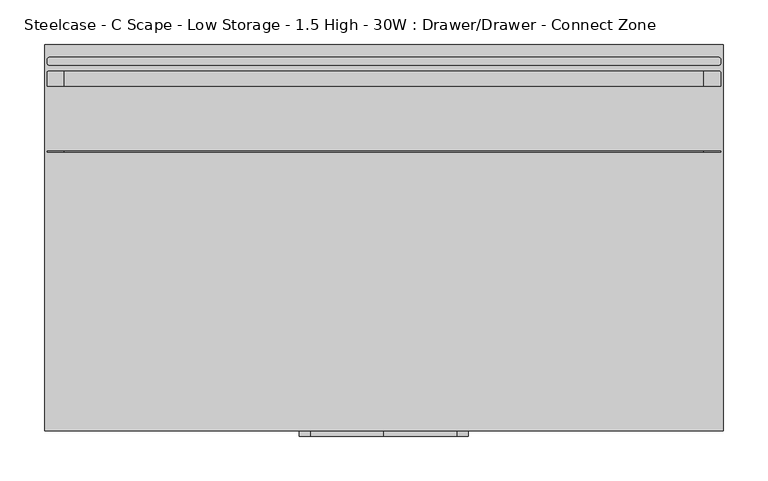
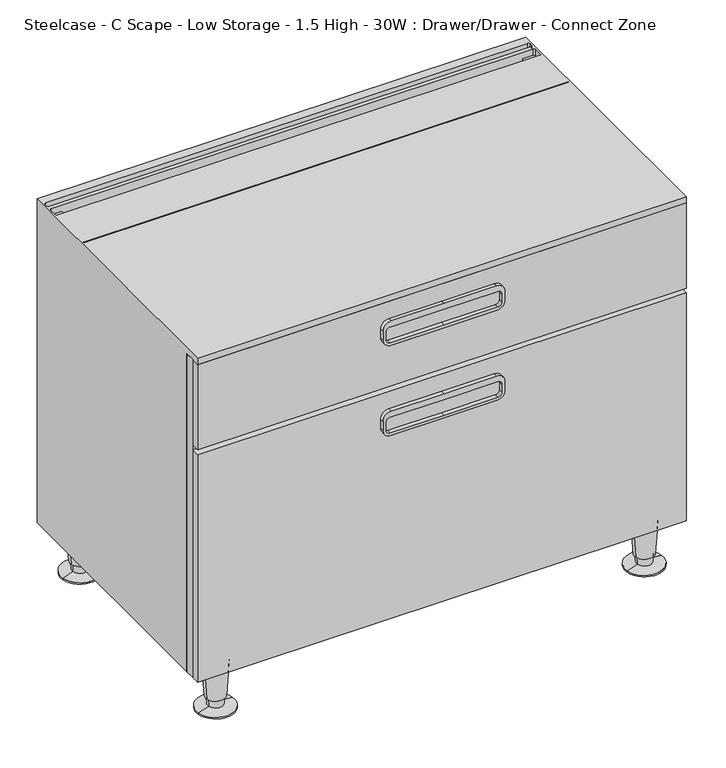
"""IFC4 building model written with IfcOpenShell, lengths in millimetres: furniture geometry, Steelcase - C Scape - Low Storage - 1.5 High - 30W : Drawer/Drawer - Connect Zone."""

from ifc_helpers import new_model, si_unit, point, frame, frame_2d, origin, place, context, project, spatial, polyline, circle_curve, trimmed, segment, composite_curve, outline, extrude, source, transform, mapped, element, save
from ifc_brep_helpers import plane_surface, cylinder_surface, revolved_surface, advanced_brep


def steelcase_c_scape_low_storage_1_5_high_30w_drawer_drawer_baf7e037(model_context):
    return source(origin(), model_context, "Body", "SolidModel", [
        extrude(outline(polyline([(599.4499291, 0.0), (76.2, 0.0), (76.2, 760.73), (599.4499291, 760.73), (599.4499291, 320.0585382), (599.4499291, 0.0)]), holes=[polyline([(458.7875121, 21.3382324), (582.9399291, 21.3382324), (582.9399291, 738.7617285), (458.7875121, 738.7617285), (458.7875121, 21.3382324)]), polyline([(436.841904, 21.3256814), (436.841904, 738.7617285), (92.7100024, 738.7617285), (92.7100024, 21.3256814), (436.841904, 21.3256814)])]), frame((0.0, -419.3540543, 0.0), z_axis=(0.0, 1.0, 0.0), x_axis=(0.0, 0.0, 1.0)), (0.0, 0.0, 1.0), 14.9860039),
        extrude(outline(composite_curve([segment(trimmed(circle_curve(frame_2d((558.1749291, 297.8147442)), 12.7), [point((570.8749291, 297.8147442))], [point((558.1749291, 285.1147442))], False, "CARTESIAN"), True, "CONTINUOUS"), segment(polyline([(558.1749291, 285.1147442), (543.5699582, 285.1147442)]), True, "CONTINUOUS"), segment(trimmed(circle_curve(frame_2d((543.5699582, 297.8147442)), 12.7), [point((543.5699582, 285.1147442))], [point((530.8699582, 297.8147442))], False, "CARTESIAN"), True, "CONTINUOUS"), segment(polyline([(530.8699582, 297.8147442), (530.8699582, 380.0475), (530.8699582, 462.2802558)]), True, "CONTINUOUS"), segment(trimmed(circle_curve(frame_2d((543.5699582, 462.2802558)), 12.7), [point((530.8699582, 462.2802558))], [point((543.5699582, 474.9802558))], False, "CARTESIAN"), True, "CONTINUOUS"), segment(polyline([(543.5699582, 474.9802558), (558.1749291, 474.9802558)]), True, "CONTINUOUS"), segment(trimmed(circle_curve(frame_2d((558.1749291, 462.2802558)), 12.7), [point((558.1749291, 474.9802558))], [point((570.8749291, 462.2802558))], False, "CARTESIAN"), True, "CONTINUOUS"), segment(polyline([(570.8749291, 462.2802558), (570.8749291, 380.0475), (570.8749291, 297.8147442)]), True, "CONTINUOUS")], self_intersect=False), holes=[composite_curve([segment(trimmed(circle_curve(frame_2d((554.7459476, 296.2923565)), 6.35), [point((554.7459476, 289.9423565))], [point((561.0959476, 296.2923565))], True, "CARTESIAN"), True, "CONTINUOUS"), segment(polyline([(561.0959476, 296.2923565), (561.0959476, 380.0475), (561.0959476, 463.8026435)]), True, "CONTINUOUS"), segment(trimmed(circle_curve(frame_2d((554.7459476, 463.8026435)), 6.35), [point((561.0959476, 463.8026435))], [point((554.7459476, 470.1526435))], True, "CARTESIAN"), True, "CONTINUOUS"), segment(polyline([(554.7459476, 470.1526435), (542.0459354, 470.1526435)]), True, "CONTINUOUS"), segment(trimmed(circle_curve(frame_2d((542.0459354, 463.8026435)), 6.35), [point((542.0459354, 470.1526435))], [point((535.6959354, 463.8026435))], True, "CARTESIAN"), True, "CONTINUOUS"), segment(polyline([(535.6959354, 463.8026435), (535.6959354, 380.0475), (535.6959354, 296.2923565)]), True, "CONTINUOUS"), segment(trimmed(circle_curve(frame_2d((542.0459354, 296.2923565)), 6.35), [point((535.6959354, 296.2923565))], [point((542.0459354, 289.9423565))], True, "CARTESIAN"), True, "CONTINUOUS"), segment(polyline([(542.0459354, 289.9423565), (554.7459476, 289.9423565)]), True, "CONTINUOUS")], self_intersect=False)]), frame((0.0, -439.42, 0.0), z_axis=(0.0, 1.0, 0.0), x_axis=(0.0, 0.0, 1.0)), (0.0, 0.0, 1.0), 6.35),
        extrude(outline(composite_curve([segment(trimmed(circle_curve(frame_2d((409.5749879, 297.8147442)), 12.7), [point((422.2749879, 297.8147442))], [point((409.5749879, 285.1147442))], False, "CARTESIAN"), True, "CONTINUOUS"), segment(polyline([(409.5749879, 285.1147442), (394.970017, 285.1147442)]), True, "CONTINUOUS"), segment(trimmed(circle_curve(frame_2d((394.970017, 297.8147442)), 12.7), [point((394.970017, 285.1147442))], [point((382.270017, 297.8147442))], False, "CARTESIAN"), True, "CONTINUOUS"), segment(polyline([(382.270017, 297.8147442), (382.270017, 380.0475), (382.270017, 462.2802558)]), True, "CONTINUOUS"), segment(trimmed(circle_curve(frame_2d((394.970017, 462.2802558)), 12.7), [point((382.270017, 462.2802558))], [point((394.970017, 474.9802558))], False, "CARTESIAN"), True, "CONTINUOUS"), segment(polyline([(394.970017, 474.9802558), (409.5749879, 474.9802558)]), True, "CONTINUOUS"), segment(trimmed(circle_curve(frame_2d((409.5749879, 462.2802558)), 12.7), [point((409.5749879, 474.9802558))], [point((422.2749879, 462.2802558))], False, "CARTESIAN"), True, "CONTINUOUS"), segment(polyline([(422.2749879, 462.2802558), (422.2749879, 380.0475), (422.2749879, 297.8147442)]), True, "CONTINUOUS")], self_intersect=False), holes=[composite_curve([segment(trimmed(circle_curve(frame_2d((406.1460063, 296.2923565)), 6.35), [point((406.1460063, 289.9423565))], [point((412.4960063, 296.2923565))], True, "CARTESIAN"), True, "CONTINUOUS"), segment(polyline([(412.4960063, 296.2923565), (412.4960063, 380.0475), (412.4960063, 463.8026435)]), True, "CONTINUOUS"), segment(trimmed(circle_curve(frame_2d((406.1460063, 463.8026435)), 6.35), [point((412.4960063, 463.8026435))], [point((406.1460063, 470.1526435))], True, "CARTESIAN"), True, "CONTINUOUS"), segment(polyline([(406.1460063, 470.1526435), (393.4459942, 470.1526435)]), True, "CONTINUOUS"), segment(trimmed(circle_curve(frame_2d((393.4459942, 463.8026435)), 6.35), [point((393.4459942, 470.1526435))], [point((387.0959942, 463.8026435))], True, "CARTESIAN"), True, "CONTINUOUS"), segment(polyline([(387.0959942, 463.8026435), (387.0959942, 380.0475), (387.0959942, 296.2923565)]), True, "CONTINUOUS"), segment(trimmed(circle_curve(frame_2d((393.4459942, 296.2923565)), 6.35), [point((387.0959942, 296.2923565))], [point((393.4459942, 289.9423565))], True, "CARTESIAN"), True, "CONTINUOUS"), segment(polyline([(393.4459942, 289.9423565), (406.1460063, 289.9423565)]), True, "CONTINUOUS")], self_intersect=False)]), frame((0.0, -439.42, 0.0), z_axis=(0.0, 1.0, 0.0), x_axis=(0.0, 0.0, 1.0)), (0.0, 0.0, 1.0), 6.35),
        advanced_brep(
        [(65.5422821, -397.1702762, 76.2), (27.8805432, -402.9325174, 76.2), (46.7114126, -400.0513968, 76.2), (61.5919341, -397.774679, 19.05), (31.8308912, -402.3281146, 19.05), (59.1623471, -398.1464055, 19.05), (34.2604781, -401.9563882, 19.05), (58.4735776, -398.2517871, 5.7545598), (34.9492476, -401.8510065, 5.7545598), (75.8224611, -395.5974102, 2.5119506), (17.6003641, -404.5053834, 2.5119506), (75.8224611, -395.5974102, 0.0), (17.6003641, -404.5053834, 0.0), (46.7114126, -400.0513968, 0.0)],
        [
            (0, 1, circle_curve(frame((46.7114126, -400.0513968, 76.2), z_axis=(0.0, 0.0, 1.0), x_axis=(0.0, -1.0, 0.0)), 19.05)),
            (1, 2),
            (2, 0),
            (1, 0, circle_curve(frame((46.7114126, -400.0513968, 76.2), z_axis=(0.0, 0.0, 1.0), x_axis=(0.0, -1.0, 0.0)), 19.05)),
            (3, 4, circle_curve(frame((46.7114126, -400.0513968, 19.05), z_axis=(0.0, 0.0, 1.0), x_axis=(0.0, -1.0, 0.0)), 15.0536827)),
            (4, 1),
            (0, 3),
            (4, 3, circle_curve(frame((46.7114126, -400.0513968, 19.05), z_axis=(0.0, 0.0, 1.0), x_axis=(0.0, -1.0, 0.0)), 15.0536827)),
            (5, 6, circle_curve(frame((46.7114126, -400.0513968, 19.05), z_axis=(0.0, 0.0, 1.0), x_axis=(0.0, -1.0, 0.0)), 12.5958232)),
            (6, 4),
            (3, 5),
            (6, 5, circle_curve(frame((46.7114126, -400.0513968, 19.05), z_axis=(0.0, 0.0, 1.0), x_axis=(0.0, -1.0, 0.0)), 12.5958232)),
            (7, 8, circle_curve(frame((46.7114126, -400.0513968, 5.7545598), z_axis=(0.0, 0.0, 1.0), x_axis=(0.0, -1.0, 0.0)), 11.8990387)),
            (8, 6),
            (5, 7),
            (8, 7, circle_curve(frame((46.7114126, -400.0513968, 5.7545598), z_axis=(0.0, 0.0, 1.0), x_axis=(0.0, -1.0, 0.0)), 11.8990387)),
            (9, 10, circle_curve(frame((46.7114126, -400.0513968, 2.5119506), z_axis=(0.0, 0.0, 1.0), x_axis=(0.0, -1.0, 0.0)), 29.4498071)),
            (10, 8),
            (7, 9),
            (10, 9, circle_curve(frame((46.7114126, -400.0513968, 2.5119506), z_axis=(0.0, 0.0, 1.0), x_axis=(0.0, -1.0, 0.0)), 29.4498071)),
            (11, 12, circle_curve(frame((46.7114126, -400.0513968, 0.0), z_axis=(0.0, 0.0, 1.0), x_axis=(0.0, -1.0, 0.0)), 29.4498071)),
            (12, 10),
            (9, 11),
            (12, 11, circle_curve(frame((46.7114126, -400.0513968, 0.0), z_axis=(0.0, 0.0, 1.0), x_axis=(0.0, -1.0, 0.0)), 29.4498071)),
            (13, 12),
            (11, 13),
        ],
        [
            plane_surface(frame((46.7114126, -400.0513968, 76.2), z_axis=(0.0, 0.0, 1.0), x_axis=(0.0, -1.0, 0.0))),
            revolved_surface(polyline([(46.7114126, -419.1013968, 76.2), (46.7114126, -415.1050795, 19.05)]), (46.7114126, -400.0513968, 25.4), (0.0, 0.0, -1.0)),
            plane_surface(frame((46.7114126, -400.0513968, 19.05), z_axis=(0.0, 0.0, -1.0), x_axis=(0.0, -1.0, 0.0))),
            revolved_surface(polyline([(46.7114126, -412.64722, 19.05), (46.7114126, -411.9504355, 5.7545598)]), (46.7114126, -400.0513968, 25.4), (0.0, 0.0, -1.0)),
            revolved_surface(polyline([(46.7114126, -411.9504355, 5.7545598), (46.7114126, -429.5012039, 2.5119506)]), (46.7114126, -400.0513968, 25.4), (0.0, 0.0, -1.0)),
            cylinder_surface(frame((46.7114126, -400.0513968, 25.4), z_axis=(0.0, 0.0, -1.0), x_axis=(0.0, -1.0, 0.0)), 29.4498071),
            plane_surface(frame((46.7114126, -400.0513968, 0.0), z_axis=(0.0, 0.0, -1.0), x_axis=(0.0, -1.0, 0.0))),
        ],
        [
            (0, [[1, 2, 3]]),
            (0, [[4, -3, -2]]),
            (1, [[5, 6, -1, 7]]),
            (1, [[8, -7, -4, -6]]),
            (2, [[9, 10, -5, 11]]),
            (2, [[12, -11, -8, -10]]),
            (3, [[13, 14, -9, 15]]),
            (3, [[16, -15, -12, -14]]),
            (4, [[17, 18, -13, 19]]),
            (4, [[20, -19, -16, -18]]),
            (5, [[21, 22, -17, 23]]),
            (5, [[24, -23, -20, -22]]),
            (6, [[25, -21, 26]]),
            (6, [[-26, -24, -25]]),
        ],
    ),
        advanced_brep(
        [(733.4598695, -397.1702762, 76.2), (695.7981305, -402.9325174, 76.2), (714.629, -400.0513968, 76.2), (729.5095214, -397.774679, 19.05), (699.7484786, -402.3281146, 19.05), (727.0799345, -398.1464055, 19.05), (702.1780655, -401.9563882, 19.05), (726.391165, -398.2517871, 5.7545598), (702.866835, -401.8510065, 5.7545598), (743.7400485, -395.5974102, 2.5119506), (685.5179515, -404.5053834, 2.5119506), (743.7400485, -395.5974102, 0.0), (685.5179515, -404.5053834, 0.0), (714.629, -400.0513968, 0.0)],
        [
            (0, 1, circle_curve(frame((714.629, -400.0513968, 76.2), z_axis=(0.0, 0.0, 1.0), x_axis=(0.0, -1.0, 0.0)), 19.05)),
            (1, 2),
            (2, 0),
            (1, 0, circle_curve(frame((714.629, -400.0513968, 76.2), z_axis=(0.0, 0.0, 1.0), x_axis=(0.0, -1.0, 0.0)), 19.05)),
            (3, 4, circle_curve(frame((714.629, -400.0513968, 19.05), z_axis=(0.0, 0.0, 1.0), x_axis=(0.0, -1.0, 0.0)), 15.0536827)),
            (4, 1),
            (0, 3),
            (4, 3, circle_curve(frame((714.629, -400.0513968, 19.05), z_axis=(0.0, 0.0, 1.0), x_axis=(0.0, -1.0, 0.0)), 15.0536827)),
            (5, 6, circle_curve(frame((714.629, -400.0513968, 19.05), z_axis=(0.0, 0.0, 1.0), x_axis=(0.0, -1.0, 0.0)), 12.5958232)),
            (6, 4),
            (3, 5),
            (6, 5, circle_curve(frame((714.629, -400.0513968, 19.05), z_axis=(0.0, 0.0, 1.0), x_axis=(0.0, -1.0, 0.0)), 12.5958232)),
            (7, 8, circle_curve(frame((714.629, -400.0513968, 5.7545598), z_axis=(0.0, 0.0, 1.0), x_axis=(0.0, -1.0, 0.0)), 11.8990387)),
            (8, 6),
            (5, 7),
            (8, 7, circle_curve(frame((714.629, -400.0513968, 5.7545598), z_axis=(0.0, 0.0, 1.0), x_axis=(0.0, -1.0, 0.0)), 11.8990387)),
            (9, 10, circle_curve(frame((714.629, -400.0513968, 2.5119506), z_axis=(0.0, 0.0, 1.0), x_axis=(0.0, -1.0, 0.0)), 29.4498071)),
            (10, 8),
            (7, 9),
            (10, 9, circle_curve(frame((714.629, -400.0513968, 2.5119506), z_axis=(0.0, 0.0, 1.0), x_axis=(0.0, -1.0, 0.0)), 29.4498071)),
            (11, 12, circle_curve(frame((714.629, -400.0513968, 0.0), z_axis=(0.0, 0.0, 1.0), x_axis=(0.0, -1.0, 0.0)), 29.4498071)),
            (12, 10),
            (9, 11),
            (12, 11, circle_curve(frame((714.629, -400.0513968, 0.0), z_axis=(0.0, 0.0, 1.0), x_axis=(0.0, -1.0, 0.0)), 29.4498071)),
            (13, 12),
            (11, 13),
        ],
        [
            plane_surface(frame((714.629, -400.0513968, 76.2), z_axis=(0.0, 0.0, 1.0), x_axis=(0.0, -1.0, 0.0))),
            revolved_surface(polyline([(714.629, -419.1013968, 76.2), (714.629, -415.1050795, 19.05)]), (714.629, -400.0513968, 25.4), (0.0, 0.0, -1.0)),
            plane_surface(frame((714.629, -400.0513968, 19.05), z_axis=(0.0, 0.0, -1.0), x_axis=(0.0, -1.0, 0.0))),
            revolved_surface(polyline([(714.629, -412.64722, 19.05), (714.629, -411.9504355, 5.7545598)]), (714.629, -400.0513968, 25.4), (0.0, 0.0, -1.0)),
            revolved_surface(polyline([(714.629, -411.9504355, 5.7545598), (714.629, -429.5012039, 2.5119506)]), (714.629, -400.0513968, 25.4), (0.0, 0.0, -1.0)),
            cylinder_surface(frame((714.629, -400.0513968, 25.4), z_axis=(0.0, 0.0, -1.0), x_axis=(0.0, -1.0, 0.0)), 29.4498071),
            plane_surface(frame((714.629, -400.0513968, 0.0), z_axis=(0.0, 0.0, -1.0), x_axis=(0.0, -1.0, 0.0))),
        ],
        [
            (0, [[1, 2, 3]]),
            (0, [[4, -3, -2]]),
            (1, [[5, 6, -1, 7]]),
            (1, [[8, -7, -4, -6]]),
            (2, [[9, 10, -5, 11]]),
            (2, [[12, -11, -8, -10]]),
            (3, [[13, 14, -9, 15]]),
            (3, [[16, -15, -12, -14]]),
            (4, [[17, 18, -13, 19]]),
            (4, [[20, -19, -16, -18]]),
            (5, [[21, 22, -17, 23]]),
            (5, [[24, -23, -20, -22]]),
            (6, [[25, -21, 26]]),
            (6, [[-26, -24, -25]]),
        ],
    ),
        advanced_brep(
        [(733.4598695, -31.5218435, 76.2), (695.7981305, -37.2840847, 76.2), (714.629, -34.4029641, 76.2), (729.5095214, -32.1262463, 19.05), (699.7484786, -36.6796819, 19.05), (727.0799345, -32.4979728, 19.05), (702.1780655, -36.3079555, 19.05), (726.391165, -32.6033544, 5.7545598), (702.866835, -36.2025738, 5.7545598), (743.7400485, -29.9489775, 2.5119506), (685.5179515, -38.8569507, 2.5119506), (743.7400485, -29.9489775, 0.0), (685.5179515, -38.8569507, 0.0), (714.629, -34.4029641, 0.0)],
        [
            (0, 1, circle_curve(frame((714.629, -34.4029641, 76.2), z_axis=(0.0, 0.0, 1.0), x_axis=(0.0, -1.0, 0.0)), 19.05)),
            (1, 2),
            (2, 0),
            (1, 0, circle_curve(frame((714.629, -34.4029641, 76.2), z_axis=(0.0, 0.0, 1.0), x_axis=(0.0, -1.0, 0.0)), 19.05)),
            (3, 4, circle_curve(frame((714.629, -34.4029641, 19.05), z_axis=(0.0, 0.0, 1.0), x_axis=(0.0, -1.0, 0.0)), 15.0536827)),
            (4, 1),
            (0, 3),
            (4, 3, circle_curve(frame((714.629, -34.4029641, 19.05), z_axis=(0.0, 0.0, 1.0), x_axis=(0.0, -1.0, 0.0)), 15.0536827)),
            (5, 6, circle_curve(frame((714.629, -34.4029641, 19.05), z_axis=(0.0, 0.0, 1.0), x_axis=(0.0, -1.0, 0.0)), 12.5958232)),
            (6, 4),
            (3, 5),
            (6, 5, circle_curve(frame((714.629, -34.4029641, 19.05), z_axis=(0.0, 0.0, 1.0), x_axis=(0.0, -1.0, 0.0)), 12.5958232)),
            (7, 8, circle_curve(frame((714.629, -34.4029641, 5.7545598), z_axis=(0.0, 0.0, 1.0), x_axis=(0.0, -1.0, 0.0)), 11.8990387)),
            (8, 6),
            (5, 7),
            (8, 7, circle_curve(frame((714.629, -34.4029641, 5.7545598), z_axis=(0.0, 0.0, 1.0), x_axis=(0.0, -1.0, 0.0)), 11.8990387)),
            (9, 10, circle_curve(frame((714.629, -34.4029641, 2.5119506), z_axis=(0.0, 0.0, 1.0), x_axis=(0.0, -1.0, 0.0)), 29.4498071)),
            (10, 8),
            (7, 9),
            (10, 9, circle_curve(frame((714.629, -34.4029641, 2.5119506), z_axis=(0.0, 0.0, 1.0), x_axis=(0.0, -1.0, 0.0)), 29.4498071)),
            (11, 12, circle_curve(frame((714.629, -34.4029641, 0.0), z_axis=(0.0, 0.0, 1.0), x_axis=(0.0, -1.0, 0.0)), 29.4498071)),
            (12, 10),
            (9, 11),
            (12, 11, circle_curve(frame((714.629, -34.4029641, 0.0), z_axis=(0.0, 0.0, 1.0), x_axis=(0.0, -1.0, 0.0)), 29.4498071)),
            (13, 12),
            (11, 13),
        ],
        [
            plane_surface(frame((714.629, -34.4029641, 76.2), z_axis=(0.0, 0.0, 1.0), x_axis=(0.0, -1.0, 0.0))),
            revolved_surface(polyline([(714.629, -53.4529641, 76.2), (714.629, -49.4566468, 19.05)]), (714.629, -34.4029641, 25.4), (0.0, 0.0, -1.0)),
            plane_surface(frame((714.629, -34.4029641, 19.05), z_axis=(0.0, 0.0, -1.0), x_axis=(0.0, -1.0, 0.0))),
            revolved_surface(polyline([(714.629, -46.9987873, 19.05), (714.629, -46.3020028, 5.7545598)]), (714.629, -34.4029641, 25.4), (0.0, 0.0, -1.0)),
            revolved_surface(polyline([(714.629, -46.3020028, 5.7545598), (714.629, -63.8527712, 2.5119506)]), (714.629, -34.4029641, 25.4), (0.0, 0.0, -1.0)),
            cylinder_surface(frame((714.629, -34.4029641, 25.4), z_axis=(0.0, 0.0, -1.0), x_axis=(0.0, -1.0, 0.0)), 29.4498071),
            plane_surface(frame((714.629, -34.4029641, 0.0), z_axis=(0.0, 0.0, -1.0), x_axis=(0.0, -1.0, 0.0))),
        ],
        [
            (0, [[1, 2, 3]]),
            (0, [[4, -3, -2]]),
            (1, [[5, 6, -1, 7]]),
            (1, [[8, -7, -4, -6]]),
            (2, [[9, 10, -5, 11]]),
            (2, [[12, -11, -8, -10]]),
            (3, [[13, 14, -9, 15]]),
            (3, [[16, -15, -12, -14]]),
            (4, [[17, 18, -13, 19]]),
            (4, [[20, -19, -16, -18]]),
            (5, [[21, 22, -17, 23]]),
            (5, [[24, -23, -20, -22]]),
            (6, [[25, -21, 26]]),
            (6, [[-26, -24, -25]]),
        ],
    ),
        advanced_brep(
        [(65.5422821, -31.5218435, 76.2), (27.8805432, -37.2840847, 76.2), (46.7114126, -34.4029641, 76.2), (61.5919341, -32.1262463, 19.05), (31.8308912, -36.6796819, 19.05), (59.1623471, -32.4979728, 19.05), (34.2604781, -36.3079555, 19.05), (58.4735776, -32.6033544, 5.7545598), (34.9492476, -36.2025738, 5.7545598), (75.8224611, -29.9489775, 2.5119506), (17.6003641, -38.8569507, 2.5119506), (75.8224611, -29.9489775, 0.0), (17.6003641, -38.8569507, 0.0), (46.7114126, -34.4029641, 0.0)],
        [
            (0, 1, circle_curve(frame((46.7114126, -34.4029641, 76.2), z_axis=(0.0, 0.0, 1.0), x_axis=(0.0, -1.0, 0.0)), 19.05)),
            (1, 2),
            (2, 0),
            (1, 0, circle_curve(frame((46.7114126, -34.4029641, 76.2), z_axis=(0.0, 0.0, 1.0), x_axis=(0.0, -1.0, 0.0)), 19.05)),
            (3, 4, circle_curve(frame((46.7114126, -34.4029641, 19.05), z_axis=(0.0, 0.0, 1.0), x_axis=(0.0, -1.0, 0.0)), 15.0536827)),
            (4, 1),
            (0, 3),
            (4, 3, circle_curve(frame((46.7114126, -34.4029641, 19.05), z_axis=(0.0, 0.0, 1.0), x_axis=(0.0, -1.0, 0.0)), 15.0536827)),
            (5, 6, circle_curve(frame((46.7114126, -34.4029641, 19.05), z_axis=(0.0, 0.0, 1.0), x_axis=(0.0, -1.0, 0.0)), 12.5958232)),
            (6, 4),
            (3, 5),
            (6, 5, circle_curve(frame((46.7114126, -34.4029641, 19.05), z_axis=(0.0, 0.0, 1.0), x_axis=(0.0, -1.0, 0.0)), 12.5958232)),
            (7, 8, circle_curve(frame((46.7114126, -34.4029641, 5.7545598), z_axis=(0.0, 0.0, 1.0), x_axis=(0.0, -1.0, 0.0)), 11.8990387)),
            (8, 6),
            (5, 7),
            (8, 7, circle_curve(frame((46.7114126, -34.4029641, 5.7545598), z_axis=(0.0, 0.0, 1.0), x_axis=(0.0, -1.0, 0.0)), 11.8990387)),
            (9, 10, circle_curve(frame((46.7114126, -34.4029641, 2.5119506), z_axis=(0.0, 0.0, 1.0), x_axis=(0.0, -1.0, 0.0)), 29.4498071)),
            (10, 8),
            (7, 9),
            (10, 9, circle_curve(frame((46.7114126, -34.4029641, 2.5119506), z_axis=(0.0, 0.0, 1.0), x_axis=(0.0, -1.0, 0.0)), 29.4498071)),
            (11, 12, circle_curve(frame((46.7114126, -34.4029641, 0.0), z_axis=(0.0, 0.0, 1.0), x_axis=(0.0, -1.0, 0.0)), 29.4498071)),
            (12, 10),
            (9, 11),
            (12, 11, circle_curve(frame((46.7114126, -34.4029641, 0.0), z_axis=(0.0, 0.0, 1.0), x_axis=(0.0, -1.0, 0.0)), 29.4498071)),
            (13, 12),
            (11, 13),
        ],
        [
            plane_surface(frame((46.7114126, -34.4029641, 76.2), z_axis=(0.0, 0.0, 1.0), x_axis=(0.0, -1.0, 0.0))),
            revolved_surface(polyline([(46.7114126, -53.4529641, 76.2), (46.7114126, -49.4566468, 19.05)]), (46.7114126, -34.4029641, 25.4), (0.0, 0.0, -1.0)),
            plane_surface(frame((46.7114126, -34.4029641, 19.05), z_axis=(0.0, 0.0, -1.0), x_axis=(0.0, -1.0, 0.0))),
            revolved_surface(polyline([(46.7114126, -46.9987873, 19.05), (46.7114126, -46.3020028, 5.7545598)]), (46.7114126, -34.4029641, 25.4), (0.0, 0.0, -1.0)),
            revolved_surface(polyline([(46.7114126, -46.3020028, 5.7545598), (46.7114126, -63.8527712, 2.5119506)]), (46.7114126, -34.4029641, 25.4), (0.0, 0.0, -1.0)),
            cylinder_surface(frame((46.7114126, -34.4029641, 25.4), z_axis=(0.0, 0.0, -1.0), x_axis=(0.0, -1.0, 0.0)), 29.4498071),
            plane_surface(frame((46.7114126, -34.4029641, 0.0), z_axis=(0.0, 0.0, -1.0), x_axis=(0.0, -1.0, 0.0))),
        ],
        [
            (0, [[1, 2, 3]]),
            (0, [[4, -3, -2]]),
            (1, [[5, 6, -1, 7]]),
            (1, [[8, -7, -4, -6]]),
            (2, [[9, 10, -5, 11]]),
            (2, [[12, -11, -8, -10]]),
            (3, [[13, 14, -9, 15]]),
            (3, [[16, -15, -12, -14]]),
            (4, [[17, 18, -13, 19]]),
            (4, [[20, -19, -16, -18]]),
            (5, [[21, 22, -17, 23]]),
            (5, [[24, -23, -20, -22]]),
            (6, [[25, -21, 26]]),
            (6, [[-26, -24, -25]]),
        ],
    ),
        advanced_brep(
        [(757.9272317, -120.6444193, 609.6), (757.9272317, -119.3775195, 609.6), (757.9272317, -119.3775195, 599.4499291), (757.9272317, -120.6444193, 599.4499291), (757.9272317, -46.4703418, 609.6), (757.9272317, -32.274699, 609.6), (757.9272317, -32.274699, 599.4499291), (757.9272317, -46.4703418, 599.4499291), (757.9272317, -20.3138654, 609.6), (757.9272317, -17.0388453, 609.6), (757.9272317, -17.0388453, 599.4499291), (757.9272317, -20.3138654, 599.4499291), (760.73, 0.0055807, 609.6), (760.73, -433.07, 609.6), (760.73, -433.07, 599.4499291), (760.73, -404.3680504, 599.4499291), (760.73, -404.3680504, 76.2), (760.73, 0.0, 76.2), (0.0, -433.07, 609.6), (-0.012551, 0.0055807, 609.6), (755.2308823, -29.5783496, 609.6), (2.7826272, -46.4703418, 609.6), (2.7826272, -32.0458511, 609.6), (5.2501287, -29.5783496, 609.6), (754.9507358, -23.2903613, 609.6), (5.5670648, -23.2903613, 609.6), (2.7826272, -20.5059237, 609.6), (2.7826272, -17.0388453, 609.6), (5.4794022, -14.3420703, 609.6), (755.2304567, -14.3420703, 609.6), (2.7826272, -119.3775195, 609.6), (2.7826272, -120.6444193, 609.6), (0.0, 0.0055807, 76.2), (495.6775189, 0.0055807, 466.2677968), (264.4174811, 0.0055807, 466.2677968), (264.4174811, 0.0055807, 432.6382043), (380.0475, 0.0055807, 432.6382043), (495.6775189, 0.0055807, 432.6382043), (495.6775189, -9.5194193, 466.2677968), (264.4174811, -9.5194193, 466.2677968), (495.6775189, -9.5194193, 450.8499879), (264.4174811, -9.5194193, 450.8499879), (5.2501287, -29.5783496, 599.4499291), (21.3256814, -29.5783496, 599.4499291), (21.3256814, -29.5783496, 458.7875121), (738.7491775, -29.5783496, 458.7875121), (738.7491775, -29.5783496, 599.4499291), (755.2308823, -29.5783496, 599.4499291), (738.7491775, -119.3775195, 599.4499291), (21.3256814, -119.3775195, 599.4499291), (21.3256814, -46.4703418, 599.4499291), (738.7491775, -46.4703418, 599.4499291), (754.9507358, -23.2903613, 599.4499291), (5.5670648, -23.2903613, 599.4499291), (2.7826272, -20.5059237, 599.4499291), (2.7826272, -32.0458511, 599.4499291), (2.7826272, -46.4703418, 599.4499291), (2.7826272, -119.3775195, 599.4499291), (5.4794022, -14.3420703, 599.4499291), (755.2304567, -14.3420703, 599.4499291), (2.7826272, -17.0388453, 599.4499291), (21.3256814, -120.6444193, 599.4499291), (2.7826272, -120.6444193, 599.4499291), (738.7491775, -120.6444193, 599.4499291), (21.3256814, -404.3680504, 92.7100024), (738.7491775, -404.3680504, 92.7100024), (738.7491775, -9.5194193, 92.7100024), (21.3256814, -9.5194193, 92.7100024), (0.0, -404.3680504, 76.2), (0.0, -404.3680504, 599.4499291), (0.0, -433.07, 599.4499291), (738.7491775, -404.3680504, 599.4499291), (738.7491775, -404.3680504, 458.7875121), (21.3256814, -404.3680504, 458.7875121), (21.3256814, -404.3680504, 599.4499291), (21.3256814, -404.3680504, 450.8499879), (738.7491775, -404.3680504, 450.8499879), (21.3256814, -126.9863574, 599.4499291), (738.7491775, -126.9863574, 599.4499291), (21.3256814, -126.9863574, 458.7875121), (738.7491775, -126.9863574, 458.7875121), (738.7491775, -120.6444193, 458.7875121), (21.3256814, -120.6444193, 458.7875121), (21.3256814, -9.5194193, 450.8499879), (738.7491775, -9.5194193, 450.8499879), (495.6775189, -9.5194193, 432.6382043), (380.0475, -9.5194193, 432.6382043), (264.4174811, -9.5194193, 432.6382043)],
        [
            (0, 1),
            (1, 2),
            (2, 3),
            (3, 0),
            (4, 5),
            (5, 6),
            (6, 7),
            (7, 4),
            (8, 9),
            (9, 10),
            (10, 11),
            (11, 8),
            (12, 13),
            (13, 14),
            (14, 15),
            (15, 16),
            (16, 17),
            (17, 12),
            (18, 13),
            (12, 19),
            (19, 18),
            (20, 5, circle_curve(frame((755.2308823, -32.274699, 609.6), z_axis=(0.0, 0.0, -1.0), x_axis=(1.0, 0.0, 0.0)), 2.6963494)),
            (4, 21),
            (21, 22),
            (22, 23, circle_curve(frame((5.2501287, -32.0458511, 609.6), z_axis=(0.0, 0.0, -1.0), x_axis=(1.0, 0.0, 0.0)), 2.4675015)),
            (23, 20),
            (8, 24, circle_curve(frame((754.9507358, -20.3138654, 609.6), z_axis=(0.0, 0.0, -1.0), x_axis=(1.0, 0.0, 0.0)), 2.9764959)),
            (24, 25),
            (25, 26, circle_curve(frame((5.5670648, -20.5059237, 609.6), z_axis=(0.0, 0.0, -1.0), x_axis=(1.0, 0.0, 0.0)), 2.7844376)),
            (26, 27),
            (27, 28, circle_curve(frame((5.4794022, -17.0388453, 609.6), z_axis=(0.0, 0.0, -1.0), x_axis=(1.0, 0.0, 0.0)), 2.696775)),
            (28, 29),
            (29, 9, circle_curve(frame((755.2304567, -17.0388453, 609.6), z_axis=(0.0, 0.0, -1.0), x_axis=(1.0, 0.0, 0.0)), 2.696775)),
            (30, 1),
            (0, 31),
            (31, 30),
            (17, 32),
            (32, 19),
            (33, 34),
            (34, 35),
            (35, 36),
            (36, 37),
            (37, 33),
            (33, 38),
            (38, 39),
            (39, 34),
            (38, 40),
            (40, 41),
            (41, 39),
            (23, 42),
            (42, 43),
            (43, 44),
            (44, 45),
            (45, 46),
            (46, 47),
            (47, 20),
            (48, 49),
            (49, 50),
            (50, 51),
            (51, 48),
            (47, 6, circle_curve(frame((755.2308823, -32.274699, 599.4499291), z_axis=(0.0, 0.0, -1.0), x_axis=(1.0, 0.0, 0.0)), 2.6963494)),
            (11, 52, circle_curve(frame((754.9507358, -20.3138654, 599.4499291), z_axis=(0.0, 0.0, -1.0), x_axis=(1.0, 0.0, 0.0)), 2.9764959)),
            (52, 24),
            (52, 53),
            (53, 25),
            (53, 54, circle_curve(frame((5.5670648, -20.5059237, 599.4499291), z_axis=(0.0, 0.0, -1.0), x_axis=(1.0, 0.0, 0.0)), 2.7844376)),
            (54, 26),
            (22, 55),
            (55, 42, circle_curve(frame((5.2501287, -32.0458511, 599.4499291), z_axis=(0.0, 0.0, -1.0), x_axis=(1.0, 0.0, 0.0)), 2.4675015)),
            (7, 51),
            (50, 56),
            (56, 21),
            (30, 57),
            (57, 49),
            (48, 2),
            (28, 58),
            (58, 59),
            (59, 29),
            (59, 10, circle_curve(frame((755.2304567, -17.0388453, 599.4499291), z_axis=(0.0, 0.0, -1.0), x_axis=(1.0, 0.0, 0.0)), 2.696775)),
            (27, 60),
            (60, 58, circle_curve(frame((5.4794022, -17.0388453, 599.4499291), z_axis=(0.0, 0.0, -1.0), x_axis=(1.0, 0.0, 0.0)), 2.696775)),
            (61, 49),
            (57, 62),
            (62, 61),
            (48, 63),
            (63, 3),
            (60, 54),
            (50, 43),
            (55, 56),
            (46, 51),
            (64, 65),
            (65, 66),
            (66, 67),
            (67, 64),
            (16, 68),
            (68, 32),
            (68, 69),
            (69, 70),
            (70, 18),
            (15, 71),
            (71, 72),
            (72, 73),
            (73, 74),
            (74, 69),
            (64, 75),
            (75, 76),
            (76, 65),
            (70, 14),
            (74, 77),
            (77, 78),
            (78, 71),
            (77, 79),
            (79, 80),
            (80, 78),
            (63, 81),
            (81, 82),
            (82, 61),
            (62, 31),
            (44, 82),
            (81, 45),
            (79, 73),
            (72, 80),
            (75, 83),
            (83, 41),
            (40, 84),
            (84, 76),
            (67, 83),
            (84, 66),
            (85, 86),
            (86, 87),
            (87, 41),
            (40, 85),
            (37, 85),
            (36, 86),
            (35, 87),
        ],
        [
            plane_surface(frame((757.9272317, -120.6444193, 609.6), z_axis=(-1.0, 0.0, 0.0), x_axis=(0.0, -1.4185860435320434e-12, 1.0))),
            plane_surface(frame((760.73, -120.6444193, 609.6), z_axis=(1.0, 0.0, 0.0), x_axis=(0.0, 1.4185860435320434e-12, -1.0))),
            plane_surface(frame((757.9272317, -120.6444193, 609.6), z_axis=(0.0, 0.0, 1.0), x_axis=(1.0, 0.0, 0.0))),
            plane_surface(frame((757.9272317, 0.0055807, 609.6), z_axis=(0.0, 1.0, 0.0), x_axis=(1.0, 0.0, 0.0))),
            plane_surface(frame((757.9272317, 0.0055807, 466.2677968), z_axis=(0.0, 0.0, -1.0), x_axis=(1.0, 0.0, 0.0))),
            plane_surface(frame((757.9272317, -9.5194193, 466.2677968), z_axis=(0.0, 1.0, 0.0), x_axis=(1.0, 0.0, 0.0))),
            plane_surface(frame((757.9272317, -29.5783496, 458.7875121), z_axis=(0.0, -1.0, 0.0), x_axis=(1.0, 0.0, 0.0))),
            plane_surface(frame((757.9272317, -29.5783496, 599.4499291), z_axis=(0.0, 0.0, -1.0), x_axis=(1.0, 0.0, 0.0))),
            revolved_surface(polyline([(757.9272317, -32.274699, 599.4499291), (757.9272317, -32.274699, 609.6)]), (755.2308823, -32.274699, 599.4499291), (0.0, 0.0, -1.0)),
            revolved_surface(polyline([(757.9272317, -20.3138654, 599.4499291), (757.9272317, -20.3138654, 609.6)]), (754.9507358, -20.3138654, 599.4499291), (0.0, 0.0, -1.0)),
            plane_surface(frame((754.9507358, -23.2903613, 609.6), z_axis=(0.0, 1.0, 0.0), x_axis=(0.0, 0.0, -1.0))),
            revolved_surface(polyline([(8.3515024, -20.5059237, 599.4499291), (8.3515024, -20.5059237, 609.6)]), (5.5670648, -20.5059237, 599.4499291), (0.0, 0.0, -1.0)),
            revolved_surface(polyline([(7.7176302, -32.0458511, 599.4499291), (7.7176302, -32.0458511, 609.6)]), (5.2501287, -32.0458511, 599.4499291), (0.0, 0.0, -1.0)),
            plane_surface(frame((757.9272317, -46.4703418, 609.6), z_axis=(0.0, 1.0, 0.0), x_axis=(0.0, 0.0, -1.0))),
            plane_surface(frame((2.7826272, -119.3775195, 609.6), z_axis=(0.0, -1.0, 0.0), x_axis=(0.0, 0.0, -1.0))),
            plane_surface(frame((5.4794022, -14.3420703, 609.6), z_axis=(0.0, -1.0, 0.0), x_axis=(0.0, 0.0, -1.0))),
            revolved_surface(polyline([(757.9272317, -17.0388453, 599.4499291), (757.9272317, -17.0388453, 609.6)]), (755.2304567, -17.0388453, 41.6295811), (0.0, 0.0, -1.0)),
            revolved_surface(polyline([(8.1761772, -17.0388453, 599.4499291), (8.1761772, -17.0388453, 609.6)]), (5.4794022, -17.0388453, 41.6295811), (0.0, 0.0, -1.0)),
            plane_surface(frame((757.9272317, 0.0055807, 599.4499291), z_axis=(0.0, 0.0, 1.0), x_axis=(-1.0, 0.0, 0.0))),
            plane_surface(frame((0.0, 0.0, 92.7100024), z_axis=(0.0, 0.0, 1.0), x_axis=(-1.0, 0.0, 0.0))),
            plane_surface(frame((0.0, 0.0, 76.2), z_axis=(0.0, 0.0, -1.0), x_axis=(1.0, 0.0, 0.0))),
            plane_surface(frame((0.0, 0.0, 92.7100024), z_axis=(-1.0, 0.0, 0.0), x_axis=(0.0, 0.0, -1.0))),
            plane_surface(frame((0.0, -404.3680504, 92.7100024), z_axis=(0.0, -1.0, 0.0), x_axis=(0.0, 0.0, -1.0))),
            plane_surface(frame((760.73, -433.07, 609.6), z_axis=(0.0, -1.0, 0.0), x_axis=(-1.0, 0.0, 0.0))),
            plane_surface(frame((760.73, -433.07, 599.4499291), z_axis=(0.0, 0.0, -1.0), x_axis=(-1.0, 0.0, 0.0))),
            plane_surface(frame((760.73, -126.9863574, 599.4499291), z_axis=(0.0, -1.0, 0.0), x_axis=(-1.0, 0.0, 0.0))),
            plane_surface(frame((760.73, -120.6444193, 457.1999955), z_axis=(0.0, 1.0, 0.0), x_axis=(-1.0, 0.0, 0.0))),
            plane_surface(frame((0.0, -9.5194193, 458.7875121), z_axis=(0.0, 0.0, 1.0), x_axis=(-1.0, 0.0, 0.0))),
            plane_surface(frame((0.0, -9.5194193, 450.8499879), z_axis=(0.0, 0.0, -1.0), x_axis=(1.0, 0.0, 0.0))),
            plane_surface(frame((21.3256814, -404.3680504, 599.4499291), z_axis=(1.0, 0.0, 0.0), x_axis=(0.0, 0.0, -1.0))),
            plane_surface(frame((738.7491775, -9.5194193, 599.4499291), z_axis=(-1.0, 0.0, 0.0), x_axis=(0.0, 0.0, -1.0))),
            plane_surface(frame((2.7826272, -120.6444193, 599.4499291), z_axis=(1.0, 0.0, 0.0), x_axis=(0.0, 1.0, 0.0))),
            plane_surface(frame((495.6775189, -9.5194193, 459.9177968), z_axis=(0.0, -1.0, 0.0), x_axis=(0.0, 0.0, -1.0))),
            plane_surface(frame((495.6775189, -9.5194193, 466.2677968), z_axis=(-1.0, 0.0, 0.0), x_axis=(0.0, 1.0, 0.0))),
            plane_surface(frame((495.6775189, -9.5194193, 432.6382043), z_axis=(0.0, 0.0, 1.0), x_axis=(0.0, 1.0, 0.0))),
            plane_surface(frame((380.0475, -9.5194193, 432.6382043), z_axis=(0.0, 0.0, 1.0), x_axis=(0.0, 1.0, 0.0))),
            plane_surface(frame((264.4174811, -9.5194193, 432.6382043), z_axis=(1.0, 0.0, 0.0), x_axis=(0.0, 1.0, 0.0))),
        ],
        [
            (0, [[1, 2, 3, 4]]),
            (0, [[5, 6, 7, 8]]),
            (0, [[9, 10, 11, 12]]),
            (1, [[13, 14, 15, 16, 17, 18]]),
            (2, [[19, -13, 20, 21], [22, -5, 23, 24, 25, 26], [27, 28, 29, 30, 31, 32, 33, -9], [34, -1, 35, 36]]),
            (3, [[-18, 37, 38, -20], [39, 40, 41, 42, 43]]),
            (4, [[-39, 44, 45, 46]]),
            (5, [[-45, 47, 48, 49]]),
            (6, [[-26, 50, 51, 52, 53, 54, 55, 56]]),
            (7, [[57, 58, 59, 60]]),
            (8, [[-22, -56, 61, -6]]),
            (9, [[-27, -12, 62, 63]]),
            (10, [[-28, -63, 64, 65]]),
            (11, [[-29, -65, 66, 67]]),
            (12, [[-25, 68, 69, -50]]),
            (13, [[-23, -8, 70, -59, 71, 72]]),
            (14, [[-34, 73, 74, -57, 75, -2]]),
            (15, [[-32, 76, 77, 78]]),
            (16, [[-33, -78, 79, -10]]),
            (17, [[-31, 80, 81, -76]]),
            (18, [[82, -74, 83, 84]]),
            (18, [[85, 86, -3, -75]]),
            (18, [[-11, -79, -77, -81, 87, -66, -64, -62]]),
            (18, [[88, -51, -69, 89, -71]]),
            (18, [[90, -70, -7, -61, -55]]),
            (19, [[91, 92, 93, 94]]),
            (20, [[-17, 95, 96, -37]]),
            (21, [[-38, -96, 97, 98, 99, -21]]),
            (22, [[-95, -16, 100, 101, 102, 103, 104, -97], [-91, 105, 106, 107]]),
            (23, [[-14, -19, -99, 108]]),
            (24, [[-108, -98, -104, 109, 110, 111, -100, -15]]),
            (25, [[-110, 112, 113, 114]]),
            (26, [[-4, -86, 115, 116, 117, -84, 118, -35]]),
            (27, [[-53, 119, -116, 120]]),
            (27, [[-113, 121, -102, 122]]),
            (28, [[-106, 123, 124, -48, 125, 126]]),
            (29, [[-103, -121, -112, -109]]),
            (29, [[-105, -94, 127, -123]]),
            (29, [[-88, -58, -82, -117, -119, -52]]),
            (30, [[-101, -111, -114, -122]]),
            (30, [[-107, -126, 128, -92]]),
            (30, [[-90, -54, -120, -115, -85, -60]]),
            (31, [[-24, -72, -89, -68]]),
            (31, [[-30, -67, -87, -80]]),
            (31, [[-36, -118, -83, -73]]),
            (32, [[129, 130, 131, -124, -127, -93, -128, -125, 132]]),
            (33, [[-43, 133, -132, -47, -44]]),
            (34, [[-129, -133, -42, 134]]),
            (35, [[-130, -134, -41, 135]]),
            (36, [[-40, -46, -49, -131, -135]]),
        ],
    ),
        extrude(outline(polyline([(760.73, -419.3540543), (760.73, -433.07), (0.0, -433.07), (0.0, -419.3540543), (760.73, -419.3540543)])), frame((0.0, 0.0, 458.7875121), z_axis=(0.0, 0.0, 1.0), x_axis=(1.0, 0.0, 0.0)), (0.0, 0.0, 1.0), 140.662417),
        extrude(outline(polyline([(760.73, -419.3540543), (760.73, -433.07), (0.0, -433.07), (0.0, -419.3540543), (760.73, -419.3540543)])), frame((0.0, 0.0, 76.2), z_axis=(0.0, 0.0, 1.0), x_axis=(1.0, 0.0, 0.0)), (0.0, 0.0, 1.0), 374.6499879),
    ])


if __name__ == "__main__":
    model = new_model("IFC4")
    model_context = context("Model", 3, world=origin())
    ifc_project = project(units=[si_unit("LENGTHUNIT", "METRE", prefix="MILLI")], contexts=[model_context])
    site = spatial("IfcSite", under=ifc_project)
    building = spatial("IfcBuilding", under=site)
    placement = place(None, origin())
    steelcase_c_scape_low_storage_1_5_high_30w_drawer_drawer_shape = steelcase_c_scape_low_storage_1_5_high_30w_drawer_drawer_baf7e037(model_context)
    element("IfcFurniture", 1, ObjectType="Steelcase - C Scape - Low Storage - 1.5 High - 30W : Drawer/Drawer - Connect Zone", at=placement, inside=building, context=model_context, shape_type="MappedRepresentation", body=[
        mapped(steelcase_c_scape_low_storage_1_5_high_30w_drawer_drawer_shape, transform((0.0, 0.0, 0.0), x_axis=(1.0, 0.0, 0.0), y_axis=(0.0, 1.0, 0.0), z_axis=(0.0, 0.0, 1.0))),
    ])
    save(model, "model.ifc")
